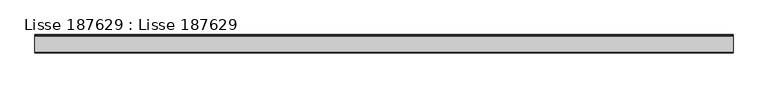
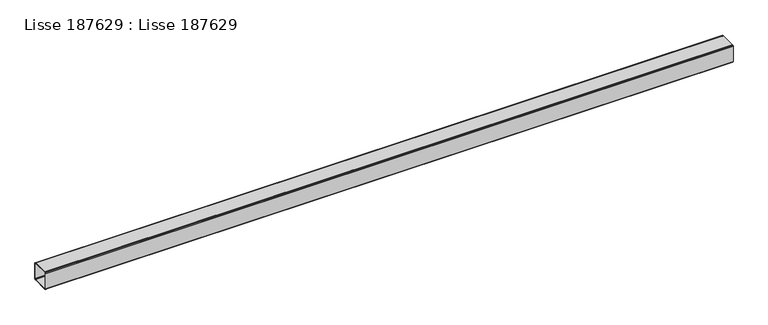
"""IFC4 building model written with IfcOpenShell, lengths in millimetres: beam geometry, Lisse 187629 : Lisse 187629."""

from ifc_helpers import new_model, si_unit, frame, origin, place, context, project, spatial, polyline, outline, extrude, source, transform, mapped, element, save


def lisse_187629_lisse_187629_2d15d1a2(model_context):
    return source(origin(), model_context, "Body", "SweptSolid", [
        extrude(outline(polyline([(94.1961524, 7103.0), (92.0, 7100.8038476), (89.0, 7100.0), (1.0, 7100.0), (-2.0, 7100.8038476), (-4.1961524, 7103.0), (-5.0, 7106.0), (-5.0, 7194.0), (-4.1961524, 7197.0), (-2.0, 7199.1961524), (1.0, 7200.0), (89.0, 7200.0), (92.0, 7199.1961524), (94.1961524, 7197.0), (95.0, 7194.0), (95.0, 7106.0), (94.1961524, 7103.0)]), holes=[polyline([(90.4641016, 7194.0), (89.0, 7195.4641016), (87.0, 7196.0), (3.0, 7196.0), (1.0, 7195.4641016), (-0.4641016, 7194.0), (-1.0, 7192.0), (-1.0, 7108.0), (-0.4641016, 7106.0), (1.0, 7104.5358984), (3.0, 7104.0), (87.0, 7104.0), (89.0, 7104.5358984), (90.4641016, 7106.0), (91.0, 7108.0), (91.0, 7192.0), (90.4641016, 7194.0)])]), frame((7664.9999999, 0.0, 0.0), z_axis=(1.0, 0.0, 0.0), x_axis=(0.0, 1.0, 0.0)), (0.0, 0.0, 1.0), 3782.5),
    ])


if __name__ == "__main__":
    model = new_model("IFC4")
    model_context = context("Model", 3, world=origin())
    ifc_project = project(units=[si_unit("LENGTHUNIT", "METRE", prefix="MILLI")], contexts=[model_context])
    site = spatial("IfcSite", under=ifc_project)
    building = spatial("IfcBuilding", under=site)
    placement = place(None, origin())
    lisse_187629_lisse_187629_shape = lisse_187629_lisse_187629_2d15d1a2(model_context)
    element("IfcBeam", 1, ObjectType="Lisse 187629 : Lisse 187629", at=placement, inside=building, context=model_context, shape_type="MappedRepresentation", body=[
        mapped(lisse_187629_lisse_187629_shape, transform((0.0, 0.0, 0.0), x_axis=(1.0, 0.0, 0.0), y_axis=(0.0, 1.0, 0.0), z_axis=(0.0, 0.0, 1.0))),
    ])
    save(model, "model.ifc")
